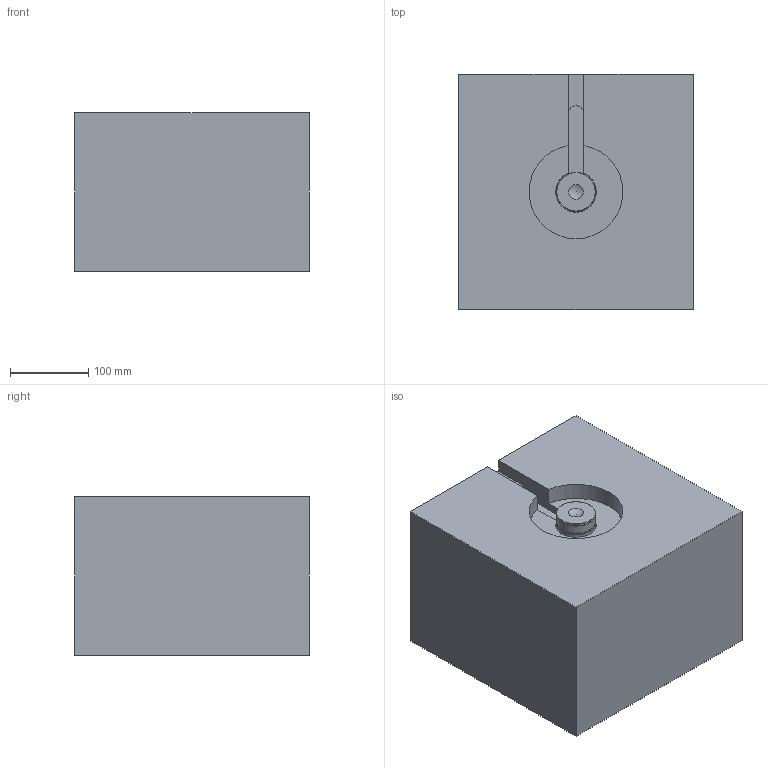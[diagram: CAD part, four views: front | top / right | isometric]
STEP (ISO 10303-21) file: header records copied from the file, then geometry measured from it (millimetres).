
FILE_DESCRIPTION( ( 'STEP AP214' ), '1' );
FILE_NAME( '//Gabi/d on gabi/PROIECTE_YUDO_2009/PROIECTE YUDO 3D/BIS/YUEU09-BIS25TLC170_2/YUEU09-BIS25TLC170.step', '2009-05-29T08:45:56', ( ' ' ), ( ' ' ), 'XStep 1.0', ' ', ' ' );
FILE_SCHEMA( ( 'automotive_design' ) );
Length unit declared in the file: millimetre
Products named in the file (6): 1; 2; 3; 4; 5; 6
Bounding box: 300 x 300 x 202 mm (x, y, z)
Volume: 17879406.3 mm3; surface area: 508251.3 mm2
Topology: 6 solids, 6 shells, 106 faces, 234 edges, 148 vertices
Faces by surface type: cylinder 41, plane 39, cone 15, torus 8, bspline 2, sphere 1
Full cylindrical faces by diameter (mm): 10.6 x1, 11.6 x1, 12 x2, 14.6 x1, 16 x1, 17 x1, 18 x1, 23.9 x1, 25 x2, 25.2 x1, 25.25 x1, 34.78 x1, 37 x1, 40 x1, 49 x1, 50 x2
Entity records: 4105 total; most frequent: CARTESIAN_POINT 1028, DIRECTION 440, ORIENTED_EDGE 378, EDGE_CURVE 189, AXIS2_PLACEMENT_3D 182, EDGE_LOOP 163, VERTEX_POINT 144, FACE_OUTER_BOUND 135
